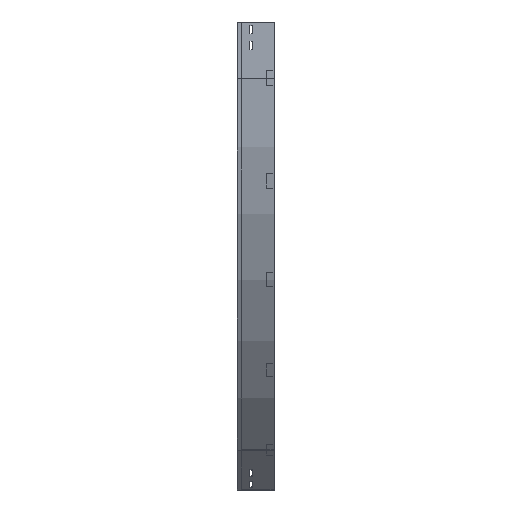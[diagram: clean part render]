
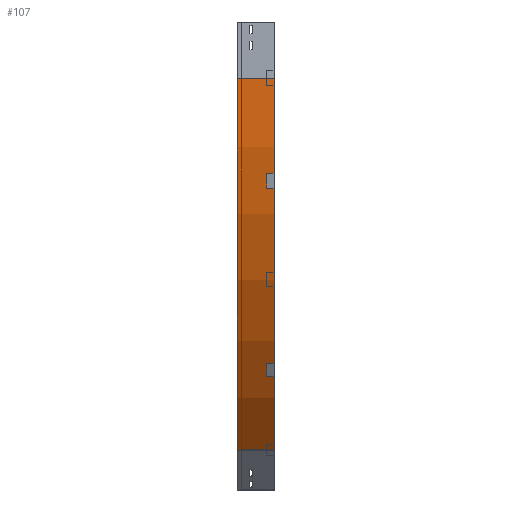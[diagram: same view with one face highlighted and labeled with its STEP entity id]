
A CAD part, left-side view. The second image highlights one B-rep face of the part: STEP entity #107.
In plain terms, the highlighted cylindrical face has radius 1400 mm (diameter 2800 mm), a partial arc.
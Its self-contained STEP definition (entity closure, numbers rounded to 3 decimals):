
#61 = VECTOR ( 'NONE', #2206, 1000. ) ;
#105 = AXIS2_PLACEMENT_3D ( 'NONE', #702, #2453, #1816 ) ;
#107 = ADVANCED_FACE ( 'NONE', ( #2711 ), #1802, .T. ) ;
#238 = ORIENTED_EDGE ( 'NONE', *, *, #1158, .F. ) ;
#352 = AXIS2_PLACEMENT_3D ( 'NONE', #1796, #2985, #2683 ) ;
#394 = CARTESIAN_POINT ( 'NONE',  ( 0., 100., -150. ) ) ;
#540 = CIRCLE ( 'NONE', #352, 1400. ) ;
#702 = CARTESIAN_POINT ( 'NONE',  ( 1400., 100., -150. ) ) ;
#762 = LINE ( 'NONE', #2512, #1168 ) ;
#799 = CARTESIAN_POINT ( 'NONE',  ( 410.051, 100., -1139.949 ) ) ;
#1118 = VERTEX_POINT ( 'NONE', #799 ) ;
#1158 = EDGE_CURVE ( 'NONE', #2347, #3835, #540, .T. ) ;
#1168 = VECTOR ( 'NONE', #2572, 1000. ) ;
#1347 = EDGE_CURVE ( 'NONE', #3814, #1118, #1729, .T. ) ;
#1485 = EDGE_CURVE ( 'NONE', #3814, #2347, #762, .T. ) ;
#1729 = CIRCLE ( 'NONE', #105, 1400. ) ;
#1796 = CARTESIAN_POINT ( 'NONE',  ( 1400., 0., -150. ) ) ;
#1802 = CYLINDRICAL_SURFACE ( 'NONE', #2229, 1400. ) ;
#1816 = DIRECTION ( 'NONE',  ( -1., 0., 0. ) ) ;
#1843 = DIRECTION ( 'NONE',  ( 0., 0., -1. ) ) ;
#2092 = ORIENTED_EDGE ( 'NONE', *, *, #2255, .T. ) ;
#2129 = CARTESIAN_POINT ( 'NONE',  ( 1400., 0., -150. ) ) ;
#2167 = CARTESIAN_POINT ( 'NONE',  ( 410.051, 0., -1139.949 ) ) ;
#2206 = DIRECTION ( 'NONE',  ( 0., -1., 0. ) ) ;
#2229 = AXIS2_PLACEMENT_3D ( 'NONE', #2129, #3325, #1843 ) ;
#2255 = EDGE_CURVE ( 'NONE', #1118, #3835, #3675, .T. ) ;
#2347 = VERTEX_POINT ( 'NONE', #2905 ) ;
#2453 = DIRECTION ( 'NONE',  ( 0., -1., 0. ) ) ;
#2503 = ORIENTED_EDGE ( 'NONE', *, *, #1347, .T. ) ;
#2512 = CARTESIAN_POINT ( 'NONE',  ( 0., 0., -150. ) ) ;
#2572 = DIRECTION ( 'NONE',  ( 0., -1., 0. ) ) ;
#2683 = DIRECTION ( 'NONE',  ( -1., 0., 0. ) ) ;
#2711 = FACE_OUTER_BOUND ( 'NONE', #3016, .T. ) ;
#2905 = CARTESIAN_POINT ( 'NONE',  ( 0., 0., -150. ) ) ;
#2985 = DIRECTION ( 'NONE',  ( 0., -1., 0. ) ) ;
#3016 = EDGE_LOOP ( 'NONE', ( #238, #3098, #2503, #2092 ) ) ;
#3098 = ORIENTED_EDGE ( 'NONE', *, *, #1485, .F. ) ;
#3325 = DIRECTION ( 'NONE',  ( 0., -1., 0. ) ) ;
#3671 = CARTESIAN_POINT ( 'NONE',  ( 410.051, 0., -1139.949 ) ) ;
#3675 = LINE ( 'NONE', #2167, #61 ) ;
#3814 = VERTEX_POINT ( 'NONE', #394 ) ;
#3835 = VERTEX_POINT ( 'NONE', #3671 ) ;
